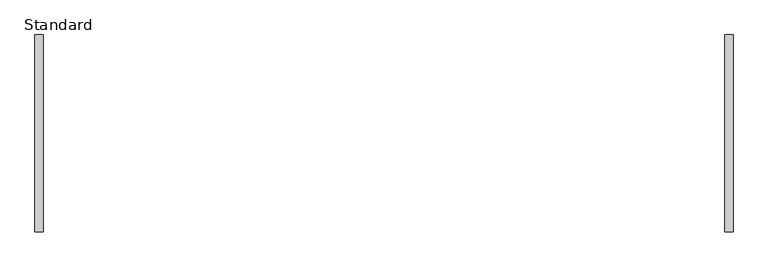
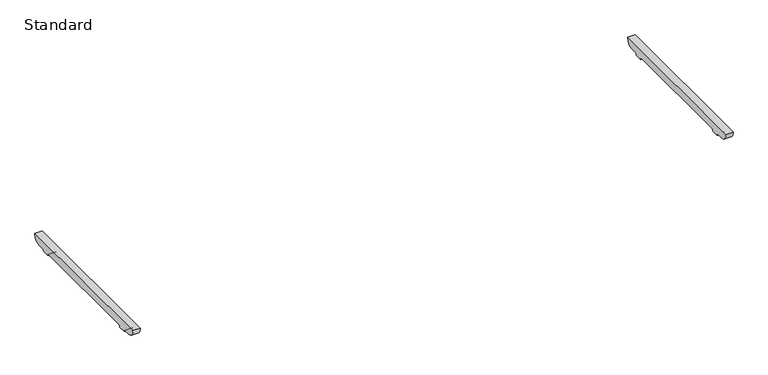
"""IFC4 building model written with IfcOpenShell, lengths in millimetres: furniture geometry, BDG_BossDesign_Tbls_AgentTables4Legs_Nested : Standard."""

from ifc_helpers import new_model, si_unit, point, frame, frame_2d, origin, place, context, project, spatial, polyline, circle_curve, trimmed, segment, composite_curve, outline, extrude, source, transform, mapped, element, save


def standard_5f55f8bf(model_context):
    return source(origin(), model_context, "Body", "SweptSolid", [
        extrude(outline(composite_curve([segment(polyline([(480.5450184, 672.0), (442.7000122, 672.0)]), True, "CONTINUOUS"), segment(trimmed(circle_curve(frame_2d((442.7000122, 660.0)), 12.0), [point((442.7000122, 672.0))], [point((430.7000122, 660.0))], True, "CARTESIAN"), True, "CONTINUOUS"), segment(polyline([(430.7000122, 660.0), (385.7000122, 660.0)]), True, "CONTINUOUS"), segment(trimmed(circle_curve(frame_2d((373.7000122, 660.0)), 12.0), [point((385.7000122, 660.0))], [point((373.7000122, 672.0))], True, "CARTESIAN"), True, "CONTINUOUS"), segment(polyline([(373.7000122, 672.0), (-373.7000122, 672.0)]), True, "CONTINUOUS"), segment(trimmed(circle_curve(frame_2d((-373.7000122, 660.0)), 12.0), [point((-373.7000122, 672.0))], [point((-385.7000122, 660.0))], True, "CARTESIAN"), True, "CONTINUOUS"), segment(polyline([(-385.7000122, 660.0), (-430.7000122, 660.0)]), True, "CONTINUOUS"), segment(trimmed(circle_curve(frame_2d((-442.7000122, 660.0)), 12.0), [point((-430.7000122, 660.0))], [point((-442.7000122, 672.0))], True, "CARTESIAN"), True, "CONTINUOUS"), segment(polyline([(-442.7000122, 672.0), (-480.5450184, 672.0)]), True, "CONTINUOUS"), segment(trimmed(circle_curve(frame_2d((-478.2220439, 716.5514119)), 44.6119324), [point((-480.5450184, 672.0))], [point((-522.5, 722.0))], False, "CARTESIAN"), True, "CONTINUOUS"), segment(polyline([(-522.5, 722.0), (522.5, 722.0)]), True, "CONTINUOUS"), segment(trimmed(circle_curve(frame_2d((478.2220439, 716.5514119)), 44.6119324), [point((522.5, 722.0))], [point((480.5450184, 672.0))], False, "CARTESIAN"), True, "CONTINUOUS")], self_intersect=False)), frame((1805.0, 0.0, 0.0), z_axis=(1.0, 0.0, 0.0), x_axis=(0.0, 1.0, 0.0)), (0.0, 0.0, 1.0), 45.0),
        extrude(outline(composite_curve([segment(polyline([(480.5450184, 672.0), (442.7000122, 672.0)]), True, "CONTINUOUS"), segment(trimmed(circle_curve(frame_2d((442.7000122, 660.0)), 12.0), [point((442.7000122, 672.0))], [point((430.7000122, 660.0))], True, "CARTESIAN"), True, "CONTINUOUS"), segment(polyline([(430.7000122, 660.0), (385.7000122, 660.0)]), True, "CONTINUOUS"), segment(trimmed(circle_curve(frame_2d((373.7000122, 660.0)), 12.0), [point((385.7000122, 660.0))], [point((373.7000122, 672.0))], True, "CARTESIAN"), True, "CONTINUOUS"), segment(polyline([(373.7000122, 672.0), (-373.7000122, 672.0)]), True, "CONTINUOUS"), segment(trimmed(circle_curve(frame_2d((-373.7000122, 660.0)), 12.0), [point((-373.7000122, 672.0))], [point((-385.7000122, 660.0))], True, "CARTESIAN"), True, "CONTINUOUS"), segment(polyline([(-385.7000122, 660.0), (-430.7000122, 660.0)]), True, "CONTINUOUS"), segment(trimmed(circle_curve(frame_2d((-442.7000122, 660.0)), 12.0), [point((-430.7000122, 660.0))], [point((-442.7000122, 672.0))], True, "CARTESIAN"), True, "CONTINUOUS"), segment(polyline([(-442.7000122, 672.0), (-480.5450184, 672.0)]), True, "CONTINUOUS"), segment(trimmed(circle_curve(frame_2d((-478.2220439, 716.5514119)), 44.6119324), [point((-480.5450184, 672.0))], [point((-522.5, 722.0))], False, "CARTESIAN"), True, "CONTINUOUS"), segment(polyline([(-522.5, 722.0), (522.5, 722.0)]), True, "CONTINUOUS"), segment(trimmed(circle_curve(frame_2d((478.2220439, 716.5514119)), 44.6119324), [point((522.5, 722.0))], [point((480.5450184, 672.0))], False, "CARTESIAN"), True, "CONTINUOUS")], self_intersect=False)), frame((-1850.0, 0.0, 0.0), z_axis=(1.0, 0.0, 0.0), x_axis=(0.0, 1.0, 0.0)), (0.0, 0.0, 1.0), 45.0),
    ])


if __name__ == "__main__":
    model = new_model("IFC4")
    model_context = context("Model", 3, world=origin())
    ifc_project = project(units=[si_unit("LENGTHUNIT", "METRE", prefix="MILLI")], contexts=[model_context])
    site = spatial("IfcSite", under=ifc_project)
    building = spatial("IfcBuilding", under=site)
    placement = place(None, origin())
    standard_shape = standard_5f55f8bf(model_context)
    element("IfcFurniture", 1, ObjectType="BDG_BossDesign_Tbls_AgentTables4Legs_Nested : Standard", at=placement, inside=building, context=model_context, shape_type="MappedRepresentation", body=[
        mapped(standard_shape, transform((0.0, 0.0, 0.0), x_axis=(1.0, 0.0, 0.0), y_axis=(0.0, 1.0, 0.0), z_axis=(0.0, 0.0, 1.0))),
    ])
    save(model, "model.ifc")
